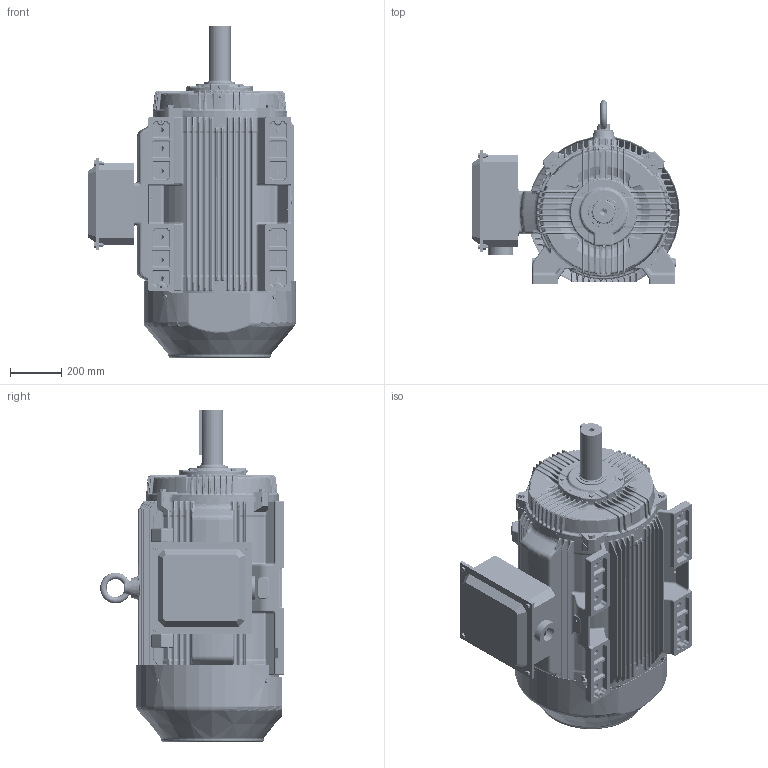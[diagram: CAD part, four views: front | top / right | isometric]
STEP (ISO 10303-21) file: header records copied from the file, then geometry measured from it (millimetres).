
FILE_DESCRIPTION (( 'STEP AP203' ), '1' );
FILE_NAME ('SS621198_RevB.STEP', '2021-07-22T15:22:01', ( '' ), ( '' ), 'SwSTEP 2.0', 'SolidWorks 2018', '' );
FILE_SCHEMA (( 'CONFIG_CONTROL_DESIGN' ));
Products named in the file (1): SS621198_RevB
Bounding box: 811 x 718.4 x 1297.4 mm (x, y, z)
Volume: 52137724 mm3; surface area: 9700208 mm2
Topology: 64 solids, 64 shells, 13565 faces, 33434 edges, 19394 vertices
Faces by surface type: cylinder 4404, bspline 4036, torus 1786, plane 1707, cone 890, sphere 742
Entity records: 572870 total; most frequent: CARTESIAN_POINT 280985, ORIENTED_EDGE 65230, DIRECTION 57687, EDGE_CURVE 32615, AXIS2_PLACEMENT_3D 25098, VERTEX_POINT 19278, CIRCLE 15568, EDGE_LOOP 14643
